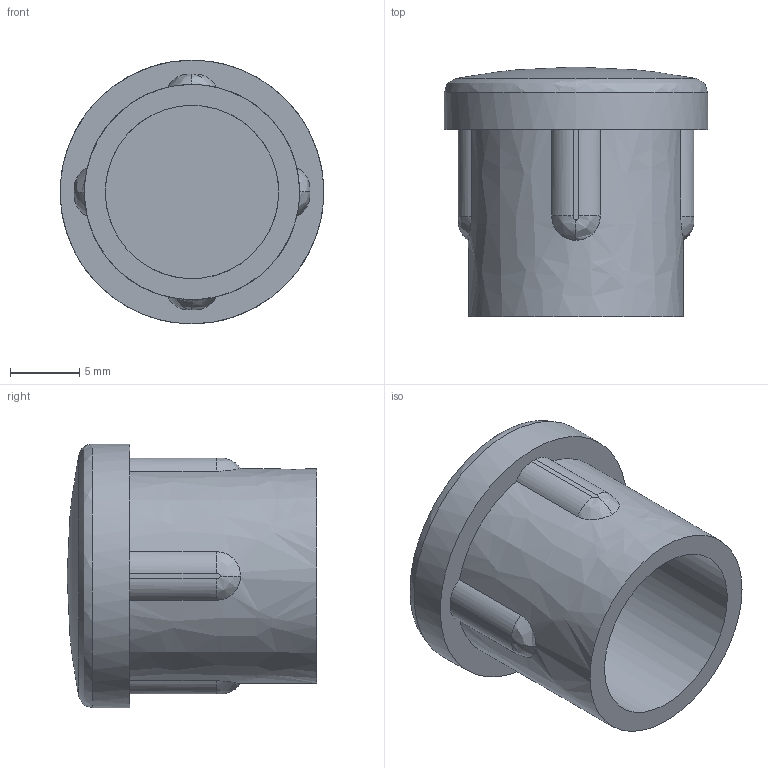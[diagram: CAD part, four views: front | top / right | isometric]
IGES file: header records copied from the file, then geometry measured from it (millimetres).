
Global section: file name: DR_PR5-19; native system: Autodesk Inventor 2015; preprocessor: unknown; author: Administrator; date: 20170925.131615; units: millimetre
Bounding box: 18.98 x 18 x 19 mm (x, y, z)
Volume: 2074.9 mm3; surface area: 1966.2 mm2
Topology: 1 solids, 1 shells, 28 faces, 73 edges, 49 vertices
Faces by surface type: bspline 28
